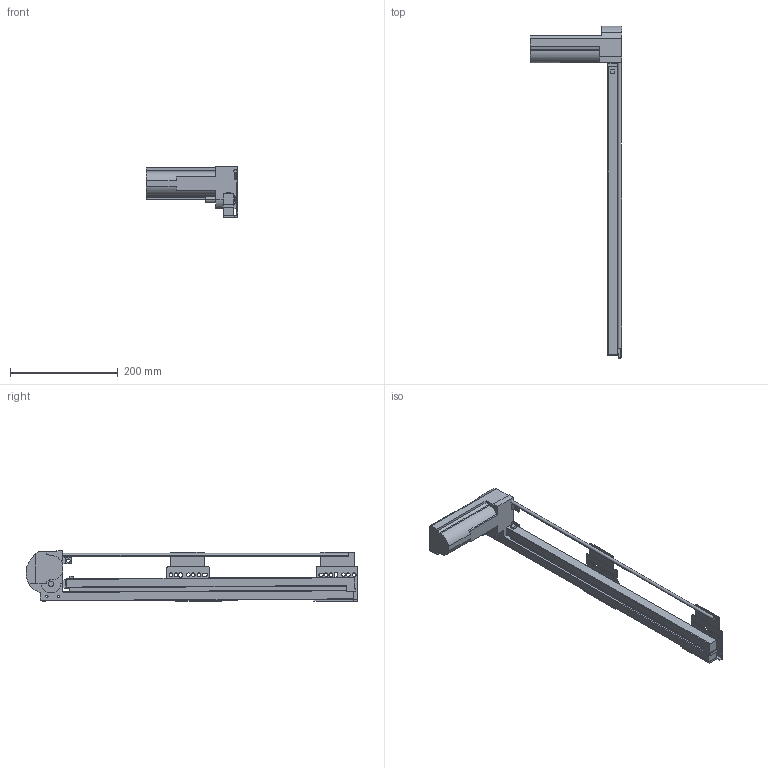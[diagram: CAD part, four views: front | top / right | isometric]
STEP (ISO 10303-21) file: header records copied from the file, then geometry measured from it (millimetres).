
FILE_DESCRIPTION (( 'STEP AP214' ), '1' );
FILE_NAME ('_IMOS_NOVA-Pro_Sensotronic_KS_P907_RE_NL-550_EB29mm.step', '2010-07-23T08:20:01', ( 'grass' ), ( '' ), 'SwSTEP 2.0', 'SolidWorks 2009', '' );
FILE_SCHEMA (( 'AUTOMOTIVE_DESIGN' ));
Length unit declared in the file: millimetre
Products named in the file (1): _IMOS_NOVA-Pro_Sensotronic_KS_P907_RE_NL-550_EB29mm
Bounding box: 169.95 x 616.61 x 94.52 mm (x, y, z)
Volume: 909382.3 mm3; surface area: 173285.7 mm2
Topology: 3 solids, 3 shells, 194 faces, 554 edges, 368 vertices
Faces by surface type: plane 119, cylinder 75
Entity records: 6477 total; most frequent: CARTESIAN_POINT 1129, ORIENTED_EDGE 1108, DIRECTION 1095, EDGE_CURVE 554, LINE 395, VECTOR 395, VERTEX_POINT 368, AXIS2_PLACEMENT_3D 350
